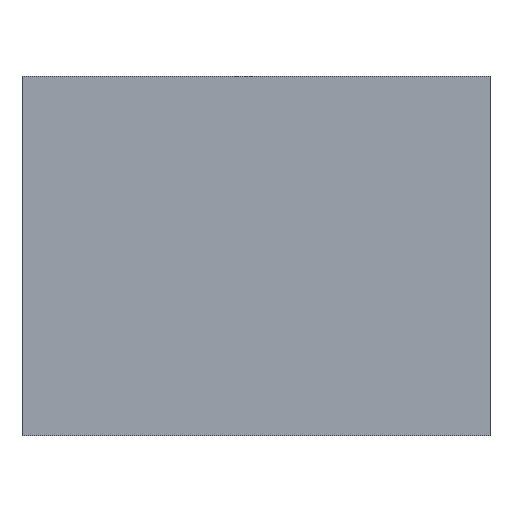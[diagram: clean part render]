
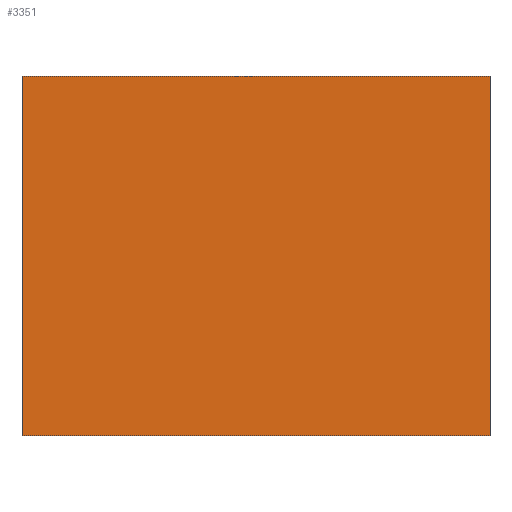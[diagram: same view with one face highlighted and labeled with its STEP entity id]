
A CAD part, top view. The second image highlights one B-rep face of the part: STEP entity #3351.
In plain terms, the highlighted planar face has unit normal (0, 0, 1).
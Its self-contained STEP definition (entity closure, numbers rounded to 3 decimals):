
#3215=CARTESIAN_POINT('Vertex',(108.,83.,36.)) ;
#3229=CARTESIAN_POINT('Vertex',(-108.,83.,36.)) ;
#3232=CARTESIAN_POINT('Line Origine',(0.,83.,36.)) ;
#3260=CARTESIAN_POINT('Vertex',(-108.,-83.,36.)) ;
#3263=CARTESIAN_POINT('Line Origine',(-108.,0.,36.)) ;
#3291=CARTESIAN_POINT('Vertex',(108.,-83.,36.)) ;
#3294=CARTESIAN_POINT('Line Origine',(0.,-83.,36.)) ;
#3316=CARTESIAN_POINT('Line Origine',(108.,0.,36.)) ;
#3340=CARTESIAN_POINT('Axis2P3D Location',(0.,0.,36.)) ;
#3233=DIRECTION('Vector Direction',(1.,0.,0.)) ;
#3264=DIRECTION('Vector Direction',(0.,1.,0.)) ;
#3295=DIRECTION('Vector Direction',(-1.,0.,0.)) ;
#3317=DIRECTION('Vector Direction',(0.,-1.,0.)) ;
#3341=DIRECTION('Axis2P3D Direction',(0.,0.,1.)) ;
#3342=DIRECTION('Axis2P3D XDirection',(1.,0.,0.)) ;
#3343=AXIS2_PLACEMENT_3D('Plane Axis2P3D',#3340,#3341,#3342) ;
#3346=ORIENTED_EDGE('',*,*,#3236,.T.) ;
#3347=ORIENTED_EDGE('',*,*,#3267,.T.) ;
#3348=ORIENTED_EDGE('',*,*,#3298,.T.) ;
#3349=ORIENTED_EDGE('',*,*,#3320,.T.) ;
#3234=VECTOR('Line Direction',#3233,1.) ;
#3265=VECTOR('Line Direction',#3264,1.) ;
#3296=VECTOR('Line Direction',#3295,1.) ;
#3318=VECTOR('Line Direction',#3317,1.) ;
#3351=ADVANCED_FACE('cavity',(#3350),#3344,.T.) ;
#3236=EDGE_CURVE('',#3216,#3230,#3235,.F.) ;
#3267=EDGE_CURVE('',#3230,#3261,#3266,.F.) ;
#3298=EDGE_CURVE('',#3261,#3292,#3297,.F.) ;
#3320=EDGE_CURVE('',#3292,#3216,#3319,.F.) ;
#3345=EDGE_LOOP('',(#3346,#3347,#3348,#3349)) ;
#3350=FACE_OUTER_BOUND('',#3345,.T.) ;
#3235=LINE('Line',#3232,#3234) ;
#3266=LINE('Line',#3263,#3265) ;
#3297=LINE('Line',#3294,#3296) ;
#3319=LINE('Line',#3316,#3318) ;
#3344=PLANE('Plane',#3343) ;
#3216=VERTEX_POINT('',#3215) ;
#3230=VERTEX_POINT('',#3229) ;
#3261=VERTEX_POINT('',#3260) ;
#3292=VERTEX_POINT('',#3291) ;
